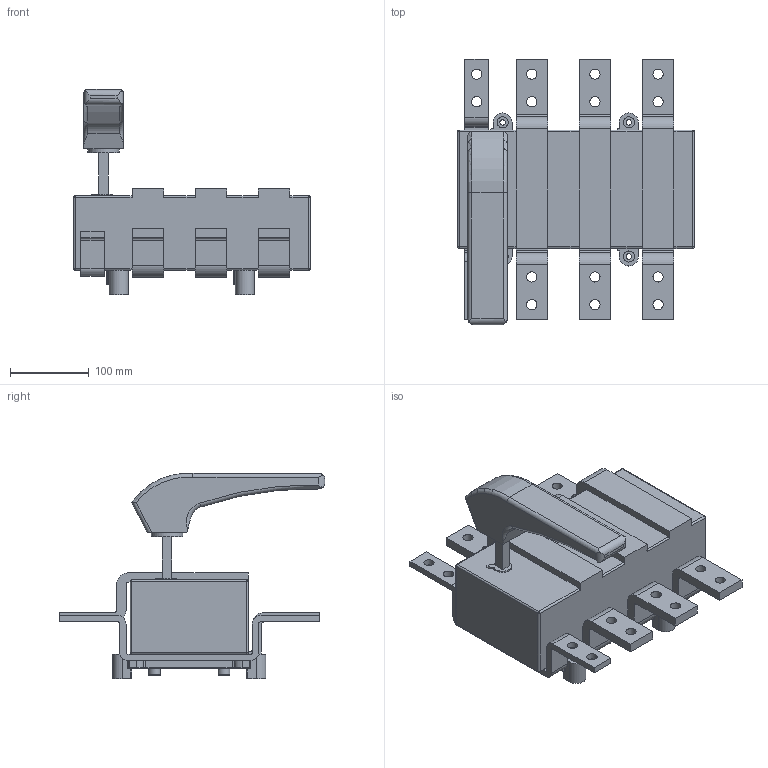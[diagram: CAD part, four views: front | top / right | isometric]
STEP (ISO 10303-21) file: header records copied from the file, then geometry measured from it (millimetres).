
FILE_DESCRIPTION(/* description */ (''),/* implementation_level */ '2;1');
FILE_NAME(/* name */ 'RA 1250 P3 N-R.stp',/* time_stamp */ '2021-08-19T09:10:02+02:00',/* author */ (''),/* organization */ (''),/* preprocessor_version */ 'ST-DEVELOPER v18.1',/* originating_system */ 'SIEMENS PLM Software NX 1965',/* authorisation */ '');
FILE_SCHEMA (('AUTOMOTIVE_DESIGN { 1 0 10303 214 3 1 1 1 }'));
Length unit declared in the file: millimetre
Products named in the file (1): RA 1250 P3 N-R
Bounding box: 300 x 337 x 260 mm (x, y, z)
Volume: 5589311.8 mm3; surface area: 384975.8 mm2
Topology: 1 solids, 1 shells, 463 faces, 1235 edges, 767 vertices
Faces by surface type: cylinder 182, plane 165, bspline 52, torus 48, sphere 8, cone 8
Full cylindrical faces by diameter (mm): 4.8 x4, 5.6 x4, 7 x4, 13 x16, 13.5 x4, 14 x4, 15 x4, 40 x1
Entity records: 17202 total; most frequent: CARTESIAN_POINT 6191, ORIENTED_EDGE 2276, DIRECTION 2234, EDGE_CURVE 1138, AXIS2_PLACEMENT_3D 834, VERTEX_POINT 746, LINE 566, VECTOR 566
